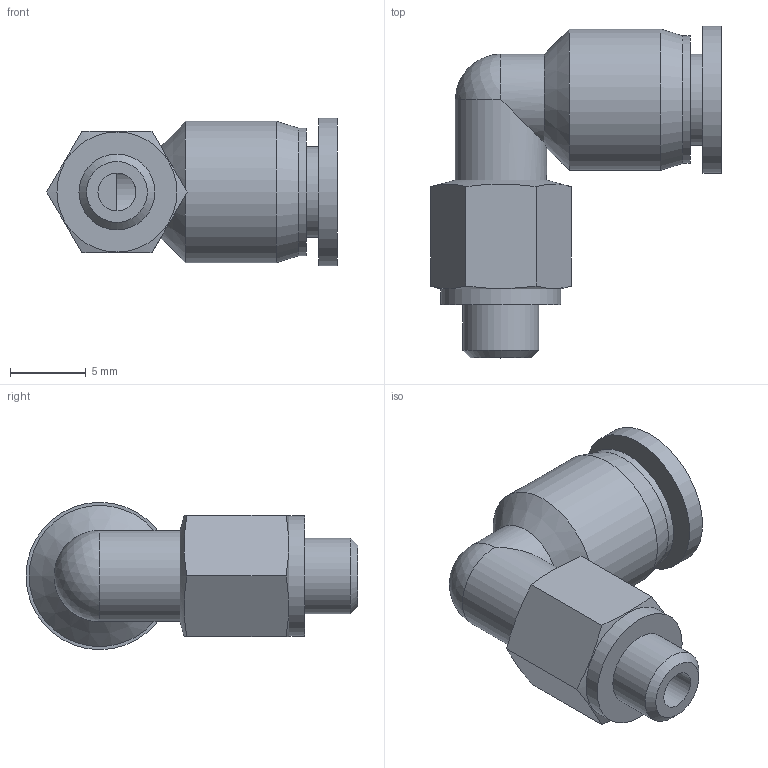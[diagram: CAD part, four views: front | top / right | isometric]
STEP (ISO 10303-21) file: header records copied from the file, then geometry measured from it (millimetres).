
FILE_DESCRIPTION((''),'2;1');
FILE_NAME('S:\UTecnico\ArchivioUT\Speciali Clienti\Speciali KONFIT\Plastica\RP\RP 72\RP72M504.stp','2012-05-21T15:54:34',('UT5'),(''),'Autodesk Inventor 2012','Autodesk Inventor 2012','');
FILE_SCHEMA(('AUTOMOTIVE_DESIGN { 1 0 10303 214 1 1 1 1 }'));
Length unit declared in the file: millimetre
Products named in the file (1): RP72M504
Bounding box: 19.12 x 21.85 x 9.7 mm (x, y, z)
Volume: 1182.8 mm3; surface area: 1279.6 mm2
Topology: 1 solids, 1 shells, 29 faces, 64 edges, 40 vertices
Faces by surface type: plane 13, cylinder 10, cone 5, sphere 1
Full cylindrical faces by diameter (mm): 2.5 x1, 4 x1, 5 x1, 6 x2, 7.9 x1, 8.4 x1, 9.3 x1, 9.7 x1
Entity records: 750 total; most frequent: CARTESIAN_POINT 162, DIRECTION 115, ORIENTED_EDGE 92, AXIS2_PLACEMENT_3D 53, EDGE_LOOP 48, EDGE_CURVE 46, VERTEX_POINT 36, FACE_OUTER_BOUND 29
